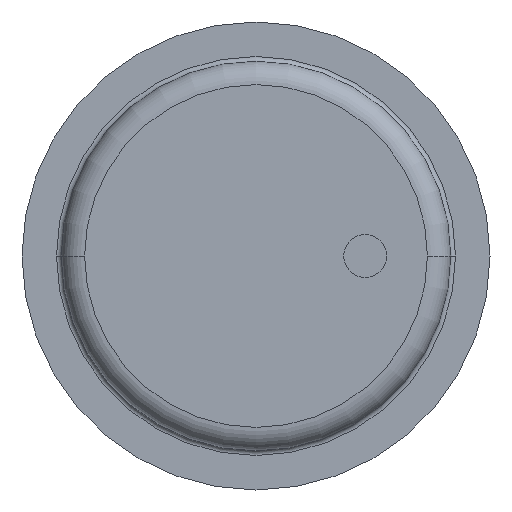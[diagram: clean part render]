
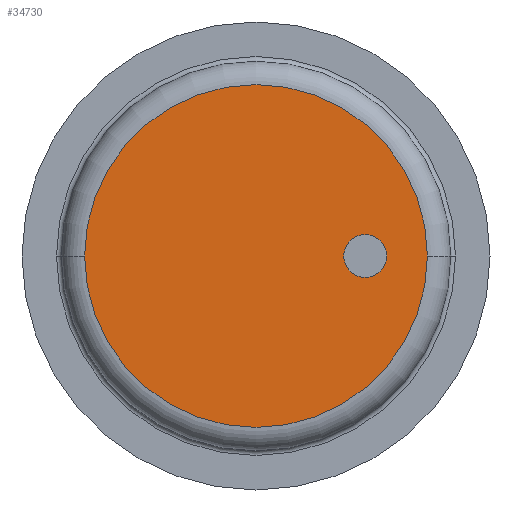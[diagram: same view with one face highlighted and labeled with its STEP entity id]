
A CAD part, front view. The second image highlights one B-rep face of the part: STEP entity #34730.
In plain terms, the highlighted planar face has unit normal (0, -1, 0).
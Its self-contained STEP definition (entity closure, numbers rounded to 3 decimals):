
#34230=CARTESIAN_POINT('',(-19.86,-491.6,0.));
#34240=VERTEX_POINT('',#34230);
#34340=CARTESIAN_POINT('',(199.86,-491.6,0.));
#34350=VERTEX_POINT('',#34340);
#34380=CARTESIAN_POINT('',(90.,-491.6,0.));
#34390=DIRECTION('',(0.,1.,0.));
#34400=DIRECTION('',(1.,0.,0.));
#34410=AXIS2_PLACEMENT_3D('',#34380,#34390,#34400);
#34420=CIRCLE('',#34410,109.86);
#34430=EDGE_CURVE('',#34240,#34350,#34420,.T.);
#34480=CARTESIAN_POINT('',(144.93,-491.6,0.));
#34490=DIRECTION('',(0.,-1.,0.));
#34500=DIRECTION('',(-1.,0.,0.));
#34510=AXIS2_PLACEMENT_3D('',#34480,#34490,#34500);
#34520=PLANE('',#34510);
#34530=CARTESIAN_POINT('',(160.,-491.6,0.));
#34540=DIRECTION('',(0.,1.,0.));
#34550=DIRECTION('',(1.,0.,0.));
#34560=AXIS2_PLACEMENT_3D('',#34530,#34540,#34550);
#34570=CIRCLE('',#34560,13.75);
#34580=CARTESIAN_POINT('',(146.25,-491.6,0.));
#34590=VERTEX_POINT('',#34580);
#34600=CARTESIAN_POINT('',(173.75,-491.6,0.));
#34610=VERTEX_POINT('',#34600);
#34620=EDGE_CURVE('',#34590,#34610,#34570,.T.);
#34630=ORIENTED_EDGE('',*,*,#34620,.T.);
#34640=EDGE_CURVE('',#34610,#34590,#34570,.T.);
#34650=ORIENTED_EDGE('',*,*,#34640,.T.);
#34660=EDGE_LOOP('',(#34650,#34630));
#34670=FACE_BOUND('',#34660,.T.);
#34680=EDGE_CURVE('',#34350,#34240,#34420,.T.);
#34690=ORIENTED_EDGE('',*,*,#34680,.F.);
#34700=ORIENTED_EDGE('',*,*,#34430,.F.);
#34710=EDGE_LOOP('',(#34700,#34690));
#34720=FACE_OUTER_BOUND('',#34710,.T.);
#34730=ADVANCED_FACE('',(#34670,#34720),#34520,.T.);
